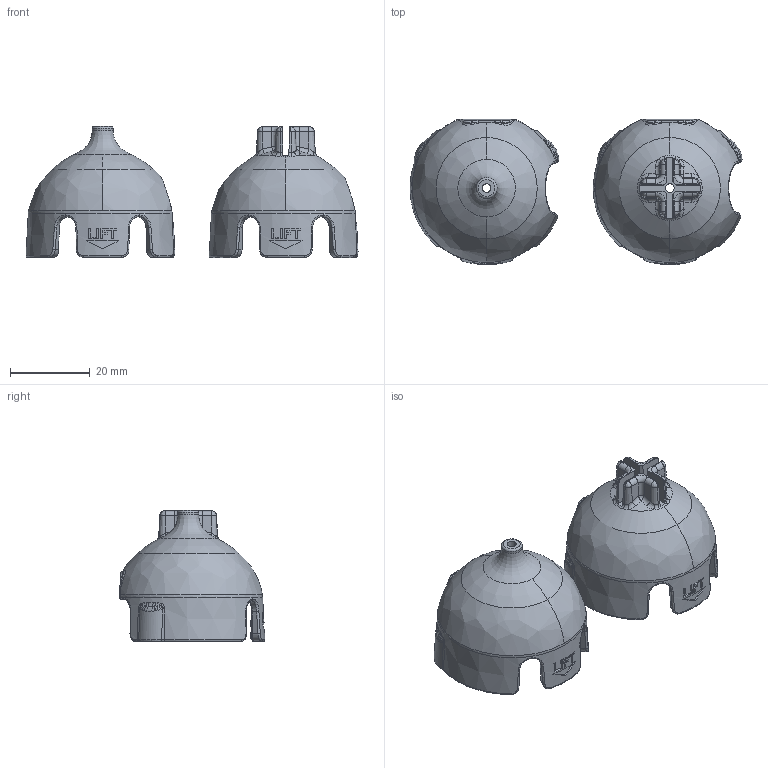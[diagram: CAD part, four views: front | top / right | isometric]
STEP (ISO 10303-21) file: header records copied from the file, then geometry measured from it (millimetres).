
FILE_DESCRIPTION(/* description */ (''),/* implementation_level */ '2;1');
FILE_NAME(/* name */ '/Users/jmac/Desktop/CAD Refresh/Evo Hats/Evo Hats.step',/* time_stamp */ '2022-09-21T15:25:33-06:00',/* author */ (''),/* organization */ (''),/* preprocessor_version */ 'ST-DEVELOPER v19',/* originating_system */ 'Autodesk Translation Framework v11.7.0.108',/* authorisation */ '');
FILE_SCHEMA (('AUTOMOTIVE_DESIGN { 1 0 10303 214 3 1 1 }'));
Length unit declared in the file: millimetre
Products named in the file (3): Evo Hats_CAD Library; Evo hat (new); Evo Hat (orig)
Assembly tree (2 placements, depth 2):
  Evo Hats_CAD Library
    Evo hat (new)
    Evo Hat (orig)
Bounding box: 83.36 x 36.48 x 32.89 mm (x, y, z)
Volume: 9875.8 mm3; surface area: 10923.7 mm2
Topology: 2 solids, 2 shells, 861 faces, 2164 edges, 1317 vertices
Faces by surface type: bspline 511, plane 152, cylinder 81, torus 75, cone 34, sphere 8
Full cylindrical faces by diameter (mm): 2.167 x2, 5.237 x1
Entity records: 70050 total; most frequent: CARTESIAN_POINT 52649, ORIENTED_EDGE 4328, DIRECTION 2747, EDGE_CURVE 2164, VERTEX_POINT 1317, AXIS2_PLACEMENT_3D 1215, B_SPLINE_CURVE_WITH_KNOTS 962, EDGE_LOOP 879
